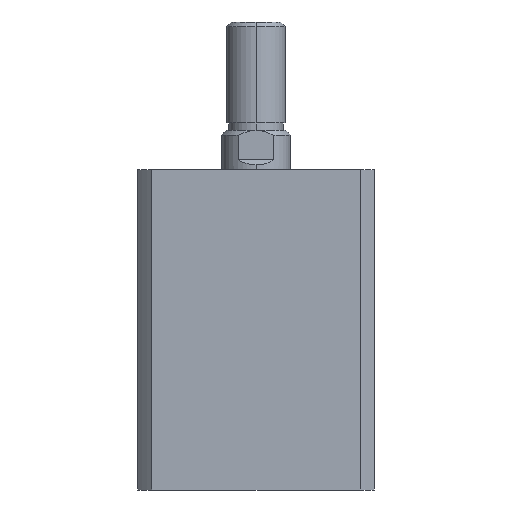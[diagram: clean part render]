
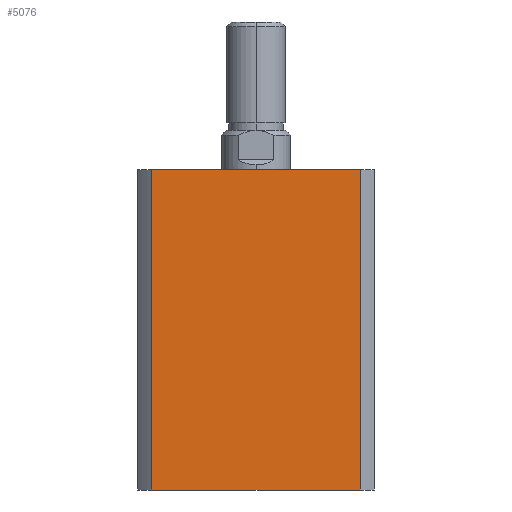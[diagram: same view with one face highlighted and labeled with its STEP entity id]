
A CAD part, left-side view. The second image highlights one B-rep face of the part: STEP entity #5076.
In plain terms, the highlighted planar face has unit normal (-1, 0, 0).
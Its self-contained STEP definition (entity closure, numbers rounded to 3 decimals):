
#860 = CARTESIAN_POINT ( 'NONE',  ( -24., 0., 65. ) ) ;
#861 = DIRECTION ( 'NONE',  ( 0., -1., 0. ) ) ;
#1353 = ORIENTED_EDGE ( 'NONE', *, *, #2143, .T. ) ;
#1354 = ORIENTED_EDGE ( 'NONE', *, *, #3216, .F. ) ;
#1355 = ORIENTED_EDGE ( 'NONE', *, *, #2142, .F. ) ;
#1356 = ORIENTED_EDGE ( 'NONE', *, *, #2141, .T. ) ;
#1408 = EDGE_LOOP ( 'NONE', ( #1356, #1355, #1354, #1353 ) ) ;
#1443 = VERTEX_POINT ( 'NONE', #4581 ) ;
#1458 = VERTEX_POINT ( 'NONE', #4563 ) ;
#1462 = VERTEX_POINT ( 'NONE', #4559 ) ;
#1482 = VERTEX_POINT ( 'NONE', #4539 ) ;
#2141 = EDGE_CURVE ( 'NONE', #1458, #1443, #2346, .T. ) ;
#2142 = EDGE_CURVE ( 'NONE', #1462, #1443, #2345, .T. ) ;
#2143 = EDGE_CURVE ( 'NONE', #1482, #1458, #2349, .T. ) ;
#2345 = LINE ( 'NONE', #4458, #2352 ) ;
#2346 = LINE ( 'NONE', #4457, #2350 ) ;
#2349 = LINE ( 'NONE', #4460, #2354 ) ;
#2350 = VECTOR ( 'NONE', #4459, 1000. ) ;
#2352 = VECTOR ( 'NONE', #4452, 1000. ) ;
#2354 = VECTOR ( 'NONE', #4450, 1000. ) ;
#2514 = LINE ( 'NONE', #860, #2516 ) ;
#2516 = VECTOR ( 'NONE', #861, 1000. ) ;
#3216 = EDGE_CURVE ( 'NONE', #1482, #1462, #2514, .T. ) ;
#3858 = CARTESIAN_POINT ( 'NONE',  ( -24., 0., 65. ) ) ;
#3862 = PLANE ( 'NONE',  #4738 ) ;
#3864 = DIRECTION ( 'NONE',  ( 1., 0., 0. ) ) ;
#3865 = DIRECTION ( 'NONE',  ( 0., 0., -1. ) ) ;
#4022 = FACE_OUTER_BOUND ( 'NONE', #1408, .T. ) ;
#4450 = DIRECTION ( 'NONE',  ( 0., 0., -1. ) ) ;
#4452 = DIRECTION ( 'NONE',  ( 0., 0., -1. ) ) ;
#4457 = CARTESIAN_POINT ( 'NONE',  ( -24., 0., 0. ) ) ;
#4458 = CARTESIAN_POINT ( 'NONE',  ( -24., -21.166, 65. ) ) ;
#4459 = DIRECTION ( 'NONE',  ( 0., -1., 0. ) ) ;
#4460 = CARTESIAN_POINT ( 'NONE',  ( -24., 21.166, 65. ) ) ;
#4539 = CARTESIAN_POINT ( 'NONE',  ( -24., 21.166, 65. ) ) ;
#4559 = CARTESIAN_POINT ( 'NONE',  ( -24., -21.166, 65. ) ) ;
#4563 = CARTESIAN_POINT ( 'NONE',  ( -24., 21.166, 0. ) ) ;
#4581 = CARTESIAN_POINT ( 'NONE',  ( -24., -21.166, 0. ) ) ;
#4738 = AXIS2_PLACEMENT_3D ( 'NONE', #3858, #3864, #3865 ) ;
#5076 = ADVANCED_FACE ( 'NONE', ( #4022 ), #3862, .F. ) ;
